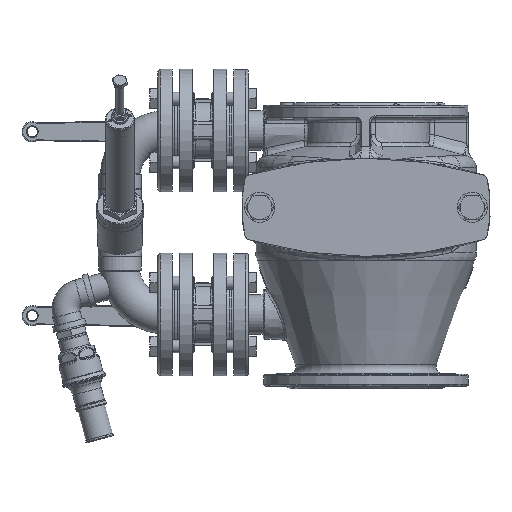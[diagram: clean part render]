
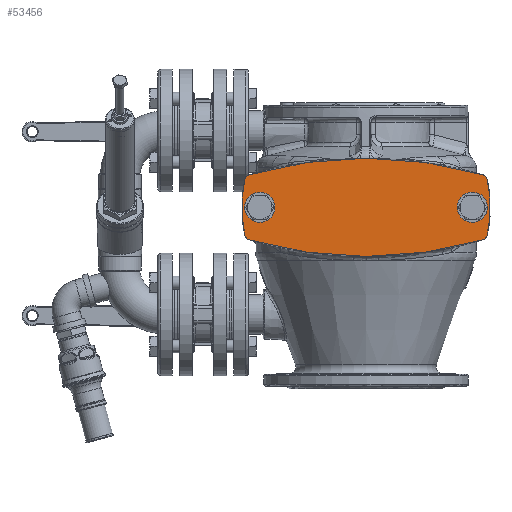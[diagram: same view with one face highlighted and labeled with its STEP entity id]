
A CAD part, left-side view. The second image highlights one B-rep face of the part: STEP entity #53456.
In plain terms, the highlighted planar face has unit normal (-1, 0, 0).
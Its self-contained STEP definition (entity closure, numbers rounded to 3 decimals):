
#49194=CARTESIAN_POINT('',(-174.,-111.5,0.0));
#49195=VERTEX_POINT('',#49194);
#49196=CARTESIAN_POINT('',(-174.,-130.0,0.0));
#49197=DIRECTION('',(1.0,0.0,0.0));
#49198=DIRECTION('',(0.0,1.0,0.0));
#49199=AXIS2_PLACEMENT_3D('',#49196,#49197,#49198);
#49200=CIRCLE('',#49199,18.5);
#49201=EDGE_CURVE('',#49195,#49195,#49200,.T.);
#49254=CARTESIAN_POINT('',(-174.,148.5,0.0));
#49255=VERTEX_POINT('',#49254);
#49256=CARTESIAN_POINT('',(-174.,130.0,0.0));
#49257=DIRECTION('',(1.0,0.0,0.0));
#49258=DIRECTION('',(0.0,1.0,0.0));
#49259=AXIS2_PLACEMENT_3D('',#49256,#49257,#49258);
#49260=CIRCLE('',#49259,18.5);
#49261=EDGE_CURVE('',#49255,#49255,#49260,.T.);
#53371=CARTESIAN_POINT('',(-174.,0.0,0.0));
#53372=DIRECTION('',(1.0,0.0,0.0));
#53373=DIRECTION('',(0.0,-1.0,0.0));
#53374=AXIS2_PLACEMENT_3D('',#53371,#53372,#53373);
#53375=PLANE('',#53374);
#53376=CARTESIAN_POINT('',(-174.,148.165,-33.927));
#53377=VERTEX_POINT('',#53376);
#53378=CARTESIAN_POINT('',(-174.,142.586,-39.827));
#53379=VERTEX_POINT('',#53378);
#53380=CARTESIAN_POINT('',(-174.,140.367,-32.141));
#53381=DIRECTION('',(-1.0,0.0,0.0));
#53382=DIRECTION('',(0.0,0.975,-0.223));
#53383=AXIS2_PLACEMENT_3D('',#53380,#53381,#53382);
#53384=CIRCLE('',#53383,8.0);
#53385=EDGE_CURVE('',#53377,#53379,#53384,.T.);
#53386=ORIENTED_EDGE('',*,*,#53385,.T.);
#53387=CARTESIAN_POINT('',(-174.,-142.586,-39.827));
#53388=VERTEX_POINT('',#53387);
#53389=CARTESIAN_POINT('',(-174.,0.0,454.));
#53390=DIRECTION('',(1.0,0.0,0.0));
#53391=DIRECTION('',(0.0,-0.277,-0.961));
#53392=AXIS2_PLACEMENT_3D('',#53389,#53390,#53391);
#53393=CIRCLE('',#53392,514.);
#53394=EDGE_CURVE('',#53388,#53379,#53393,.T.);
#53395=ORIENTED_EDGE('',*,*,#53394,.F.);
#53396=CARTESIAN_POINT('',(-174.,-148.165,-33.927));
#53397=VERTEX_POINT('',#53396);
#53398=CARTESIAN_POINT('',(-174.,-140.367,-32.141));
#53399=DIRECTION('',(-1.0,0.0,0.0));
#53400=DIRECTION('',(0.0,-0.277,-0.961));
#53401=AXIS2_PLACEMENT_3D('',#53398,#53399,#53400);
#53402=CIRCLE('',#53401,8.);
#53403=EDGE_CURVE('',#53388,#53397,#53402,.T.);
#53404=ORIENTED_EDGE('',*,*,#53403,.T.);
#53405=CARTESIAN_POINT('',(-174.,-148.165,33.927));
#53406=VERTEX_POINT('',#53405);
#53407=CARTESIAN_POINT('',(-174.,0.0,0.0));
#53408=DIRECTION('',(1.0,0.0,0.0));
#53409=DIRECTION('',(0.0,-0.975,0.223));
#53410=AXIS2_PLACEMENT_3D('',#53407,#53408,#53409);
#53411=CIRCLE('',#53410,152.);
#53412=EDGE_CURVE('',#53406,#53397,#53411,.T.);
#53413=ORIENTED_EDGE('',*,*,#53412,.F.);
#53414=CARTESIAN_POINT('',(-174.,-142.586,39.827));
#53415=VERTEX_POINT('',#53414);
#53416=CARTESIAN_POINT('',(-174.,-140.367,32.141));
#53417=DIRECTION('',(-1.0,0.0,0.0));
#53418=DIRECTION('',(0.0,-0.975,0.223));
#53419=AXIS2_PLACEMENT_3D('',#53416,#53417,#53418);
#53420=CIRCLE('',#53419,8.);
#53421=EDGE_CURVE('',#53406,#53415,#53420,.T.);
#53422=ORIENTED_EDGE('',*,*,#53421,.T.);
#53423=CARTESIAN_POINT('',(-174.,142.586,39.827));
#53424=VERTEX_POINT('',#53423);
#53425=CARTESIAN_POINT('',(-174.,0.0,-454.));
#53426=DIRECTION('',(1.0,0.0,0.0));
#53427=DIRECTION('',(0.0,0.277,0.961));
#53428=AXIS2_PLACEMENT_3D('',#53425,#53426,#53427);
#53429=CIRCLE('',#53428,514.);
#53430=EDGE_CURVE('',#53424,#53415,#53429,.T.);
#53431=ORIENTED_EDGE('',*,*,#53430,.F.);
#53432=CARTESIAN_POINT('',(-174.,148.165,33.927));
#53433=VERTEX_POINT('',#53432);
#53434=CARTESIAN_POINT('',(-174.,140.367,32.141));
#53435=DIRECTION('',(-1.0,0.0,0.0));
#53436=DIRECTION('',(0.0,0.277,0.961));
#53437=AXIS2_PLACEMENT_3D('',#53434,#53435,#53436);
#53438=CIRCLE('',#53437,8.);
#53439=EDGE_CURVE('',#53424,#53433,#53438,.T.);
#53440=ORIENTED_EDGE('',*,*,#53439,.T.);
#53441=CARTESIAN_POINT('',(-174.,0.0,0.0));
#53442=DIRECTION('',(1.0,0.0,0.0));
#53443=DIRECTION('',(0.0,0.975,-0.223));
#53444=AXIS2_PLACEMENT_3D('',#53441,#53442,#53443);
#53445=CIRCLE('',#53444,152.);
#53446=EDGE_CURVE('',#53377,#53433,#53445,.T.);
#53447=ORIENTED_EDGE('',*,*,#53446,.F.);
#53448=EDGE_LOOP('',(#53386,#53395,#53404,#53413,#53422,#53431,#53440,#53447));
#53449=FACE_OUTER_BOUND('',#53448,.T.);
#53450=ORIENTED_EDGE('',*,*,#49201,.T.);
#53451=EDGE_LOOP('',(#53450));
#53452=FACE_BOUND('',#53451,.T.);
#53453=ORIENTED_EDGE('',*,*,#49261,.T.);
#53454=EDGE_LOOP('',(#53453));
#53455=FACE_BOUND('',#53454,.T.);
#53456=ADVANCED_FACE('',(#53449,#53452,#53455),#53375,.F.);
